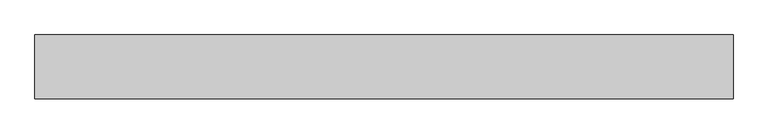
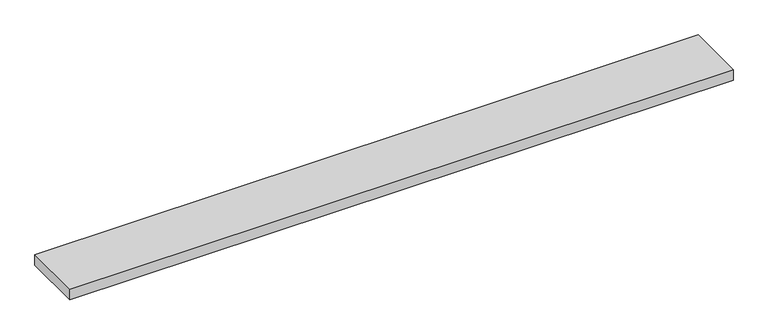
"""IFC4 building model written with IfcOpenShell, lengths in millimetres: proxy geometry, Vita_Решетка : РАП_Алюминиевая продольная."""

from ifc_helpers import new_model, si_unit, frame, origin, place, context, project, spatial, polyline, outline, extrude, source, transform, mapped, element, save


def mechanical_equipment_bd93af03(model_context):
    return source(origin(), model_context, "Body", "SweptSolid", [
        extrude(outline(polyline([(-599.0, -112.8), (599.0, -112.8), (599.0, -222.2), (-599.0, -222.2), (-599.0, -112.8)])), frame((0.0, 0.0, 329.83), z_axis=(0.0, 0.0, 1.0), x_axis=(1.0, 0.0, 0.0)), (0.0, 0.0, 1.0), 20.17),
    ])


if __name__ == "__main__":
    model = new_model("IFC4")
    model_context = context("Model", 3, world=origin())
    ifc_project = project(units=[si_unit("LENGTHUNIT", "METRE", prefix="MILLI")], contexts=[model_context])
    site = spatial("IfcSite", under=ifc_project)
    building = spatial("IfcBuilding", under=site)
    placement = place(None, origin())
    mechanical_equipment_shape = mechanical_equipment_bd93af03(model_context)
    element("IfcBuildingElementProxy", 1, Name="Vita_Решетка : РАП_Алюминиевая продольная", ObjectType="Vita_Решетка : РАП_Алюминиевая продольная", at=placement, inside=building, context=model_context, shape_type="MappedRepresentation", body=[
        mapped(mechanical_equipment_shape, transform((0.0, 0.0, 0.0), x_axis=(1.0, 0.0, 0.0), y_axis=(0.0, 1.0, 0.0), z_axis=(0.0, 0.0, 1.0))),
    ])
    save(model, "model.ifc")
